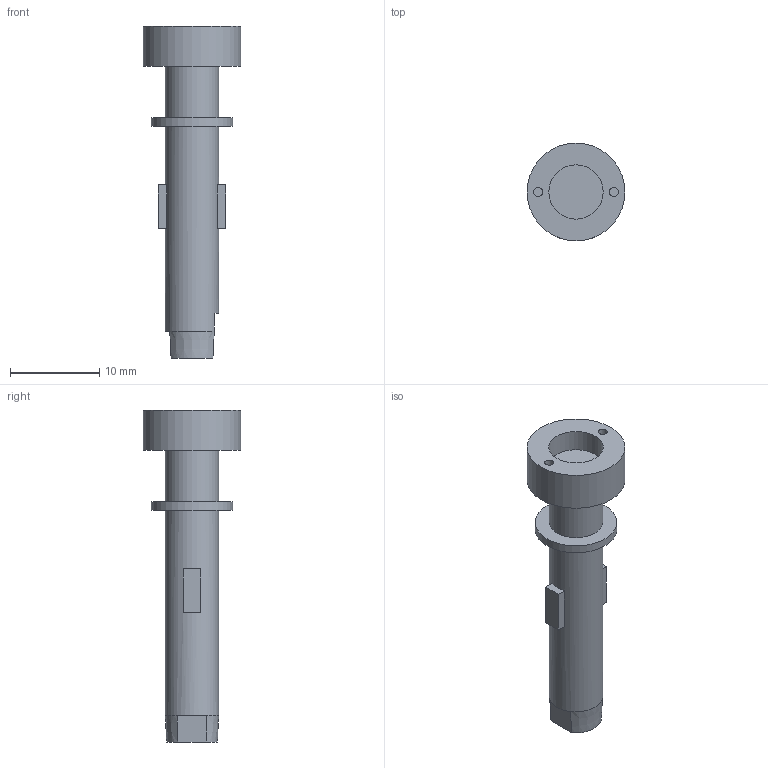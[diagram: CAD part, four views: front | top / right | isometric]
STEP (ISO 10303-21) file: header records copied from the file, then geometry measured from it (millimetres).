
FILE_DESCRIPTION(('Open CASCADE Model'),'2;1');
FILE_NAME('Open CASCADE Shape Model','2026-09-24T17:43:03',('Author'),( 'Open CASCADE'),'Open CASCADE STEP processor 7.8','Open CASCADE 7.8' ,'Unknown');
FILE_SCHEMA(('AUTOMOTIVE_DESIGN { 1 0 10303 214 1 1 1 1 }'));
Length unit declared in the file: millimetre
Products named in the file (1): Open CASCADE STEP translator 7.8 50
Bounding box: 11 x 11 x 37.3 mm (x, y, z)
Volume: 1299.9 mm3; surface area: 1167.8 mm2
Topology: 1 solids, 1 shells, 37 faces, 79 edges, 52 vertices
Faces by surface type: plane 27, cylinder 8, cone 2
Full cylindrical faces by diameter (mm): 1 x2, 2.05 x1, 6 x2, 6.1 x1, 9.2 x1, 11 x1
Entity records: 2074 total; most frequent: CARTESIAN_POINT 403, DIRECTION 325, ORIENTED_EDGE 158, PCURVE 158, DEFINITIONAL_REPRESENTATION 158, LINE 137, VECTOR 137, EDGE_CURVE 79
